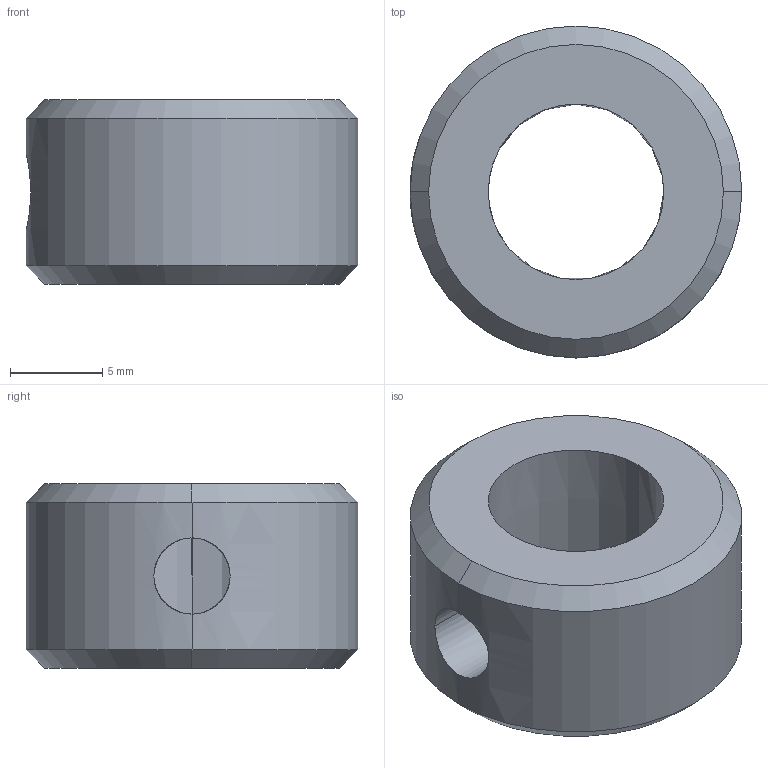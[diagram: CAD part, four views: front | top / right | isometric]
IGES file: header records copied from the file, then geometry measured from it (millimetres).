
Start section: START RECORD GO HERE.
Global section: file name: 1360.000.011.000.BUJE_AJUSTE.igs; native system: DASSAULT SYSTEMES CATIA Version 5-6 Release 2018 - www.3ds.com; preprocessor: V5-6R2018_5.28.6.0.03-10-2020.20.00; author: Pc; organization: DESKTOP-CAESKE4; date: 20241108.095457; units: millimetre
Bounding box: 18 x 18 x 10 mm (x, y, z)
Surface area: 1191.5 mm2 (no closed solid volume)
Topology: 0 solids, 0 shells, 12 faces, 72 edges, 72 vertices
Faces by surface type: revolution 10, plane 2
